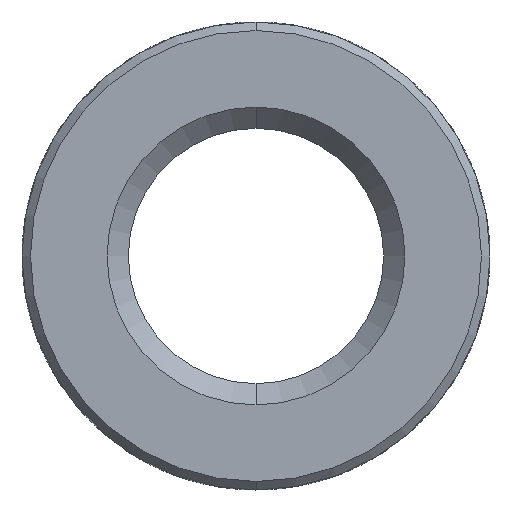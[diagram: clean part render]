
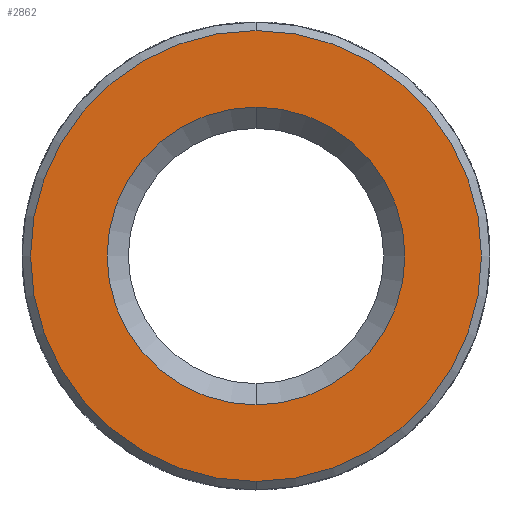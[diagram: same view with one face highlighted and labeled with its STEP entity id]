
A CAD part, front view. The second image highlights one B-rep face of the part: STEP entity #2862.
In plain terms, the highlighted planar face has unit normal (0, -1, 0).
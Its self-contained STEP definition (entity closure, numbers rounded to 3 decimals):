
#55 = VERTEX_POINT ( 'NONE', #1412 ) ;
#118 = AXIS2_PLACEMENT_3D ( 'NONE', #746, #3226, #2917 ) ;
#139 = FACE_BOUND ( 'NONE', #3328, .T. ) ;
#144 = CARTESIAN_POINT ( 'NONE',  ( 0., -5.8, 0. ) ) ;
#243 = VERTEX_POINT ( 'NONE', #3690 ) ;
#362 = AXIS2_PLACEMENT_3D ( 'NONE', #720, #2891, #1013 ) ;
#513 = EDGE_CURVE ( 'NONE', #1770, #55, #2512, .T. ) ;
#576 = VERTEX_POINT ( 'NONE', #747 ) ;
#720 = CARTESIAN_POINT ( 'NONE',  ( 0., -5.8, 2.75 ) ) ;
#744 = CARTESIAN_POINT ( 'NONE',  ( 0., -5.8, 0. ) ) ;
#746 = CARTESIAN_POINT ( 'NONE',  ( 0., -5.8, 0. ) ) ;
#747 = CARTESIAN_POINT ( 'NONE',  ( 0., -5.8, -2.65 ) ) ;
#894 = ORIENTED_EDGE ( 'NONE', *, *, #2760, .T. ) ;
#926 = CARTESIAN_POINT ( 'NONE',  ( 0., -5.8, 0. ) ) ;
#1013 = DIRECTION ( 'NONE',  ( 0., 0., -1. ) ) ;
#1166 = AXIS2_PLACEMENT_3D ( 'NONE', #144, #3828, #1340 ) ;
#1227 = EDGE_CURVE ( 'NONE', #243, #576, #3254, .T. ) ;
#1340 = DIRECTION ( 'NONE',  ( 0., 0., -1. ) ) ;
#1401 = AXIS2_PLACEMENT_3D ( 'NONE', #744, #3539, #3826 ) ;
#1412 = CARTESIAN_POINT ( 'NONE',  ( 0., -5.8, 1.75 ) ) ;
#1461 = CARTESIAN_POINT ( 'NONE',  ( 0., -5.8, -1.75 ) ) ;
#1533 = CIRCLE ( 'NONE', #3860, 2.65 ) ;
#1770 = VERTEX_POINT ( 'NONE', #1461 ) ;
#1903 = CIRCLE ( 'NONE', #1401, 1.75 ) ;
#2191 = EDGE_CURVE ( 'NONE', #576, #243, #1533, .T. ) ;
#2307 = PLANE ( 'NONE',  #362 ) ;
#2470 = DIRECTION ( 'NONE',  ( 0., 0., -1. ) ) ;
#2512 = CIRCLE ( 'NONE', #1166, 1.75 ) ;
#2760 = EDGE_CURVE ( 'NONE', #55, #1770, #1903, .T. ) ;
#2860 = ORIENTED_EDGE ( 'NONE', *, *, #1227, .T. ) ;
#2862 = ADVANCED_FACE ( 'NONE', ( #3183, #139 ), #2307, .T. ) ;
#2891 = DIRECTION ( 'NONE',  ( 0., -1., 0. ) ) ;
#2917 = DIRECTION ( 'NONE',  ( 0., 0., -1. ) ) ;
#3110 = DIRECTION ( 'NONE',  ( 0., -1., 0. ) ) ;
#3141 = ORIENTED_EDGE ( 'NONE', *, *, #513, .T. ) ;
#3143 = ORIENTED_EDGE ( 'NONE', *, *, #2191, .T. ) ;
#3183 = FACE_OUTER_BOUND ( 'NONE', #3387, .T. ) ;
#3226 = DIRECTION ( 'NONE',  ( 0., -1., 0. ) ) ;
#3254 = CIRCLE ( 'NONE', #118, 2.65 ) ;
#3328 = EDGE_LOOP ( 'NONE', ( #3141, #894 ) ) ;
#3387 = EDGE_LOOP ( 'NONE', ( #2860, #3143 ) ) ;
#3539 = DIRECTION ( 'NONE',  ( 0., 1., 0. ) ) ;
#3690 = CARTESIAN_POINT ( 'NONE',  ( 0., -5.8, 2.65 ) ) ;
#3826 = DIRECTION ( 'NONE',  ( 0., 0., -1. ) ) ;
#3828 = DIRECTION ( 'NONE',  ( 0., 1., 0. ) ) ;
#3860 = AXIS2_PLACEMENT_3D ( 'NONE', #926, #3110, #2470 ) ;
